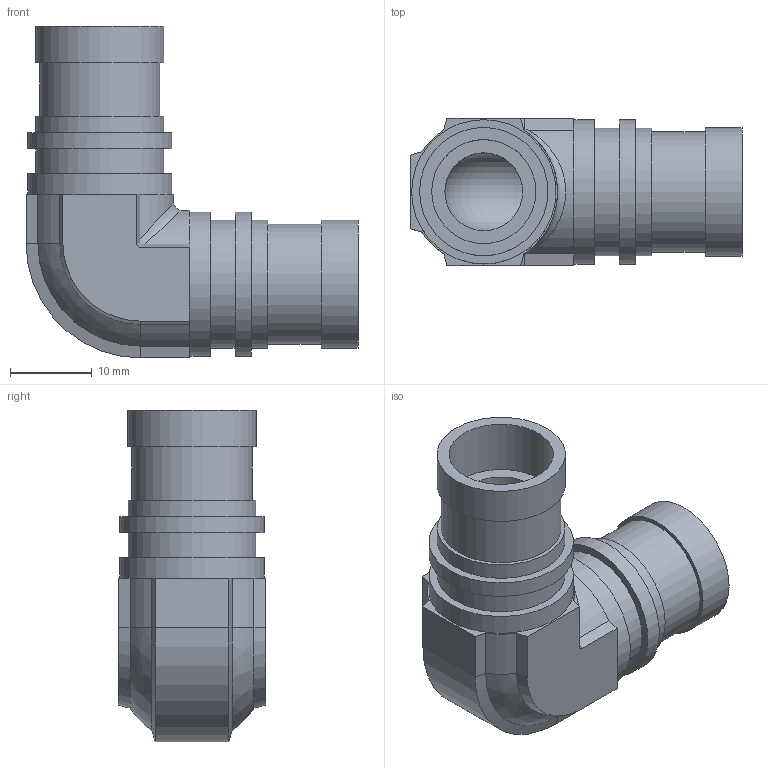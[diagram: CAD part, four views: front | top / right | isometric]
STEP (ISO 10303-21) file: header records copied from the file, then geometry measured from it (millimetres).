
FILE_DESCRIPTION( ( 'Unknown' ), '1' );
FILE_NAME( '//Sv02/01_社内情報/103_技術部/012_図面/図面/電子カタログ-3D/電子カタログ-3D元ファイル(par)/70_3D電子カタログ/03_UE/インチ/70-12.7UE-P.stp', 'Unknown', ( 'Unknown' ), ( 'Unknown' ), 'XStep 1.0', 'Unknown', ' ' );
FILE_SCHEMA( ( 'CONFIG_CONTROL_DESIGN' ) );
Length unit declared in the file: millimetre
Products named in the file (1): 1
Bounding box: 40.5 x 18 x 40.5 mm (x, y, z)
Volume: 8272.4 mm3; surface area: 5900.2 mm2
Topology: 1 solids, 1 shells, 65 faces, 137 edges, 88 vertices
Faces by surface type: plane 32, cylinder 23, cone 6, bspline 3, torus 1
Full cylindrical faces by diameter (mm): 9.5 x2, 12.7 x2, 14.65 x2, 15.6 x4, 15.65 x2, 17.6 x4
Entity records: 1965 total; most frequent: CARTESIAN_POINT 583, DIRECTION 290, ORIENTED_EDGE 232, AXIS2_PLACEMENT_3D 117, EDGE_CURVE 116, EDGE_LOOP 98, VERTEX_POINT 84, FACE_OUTER_BOUND 82
